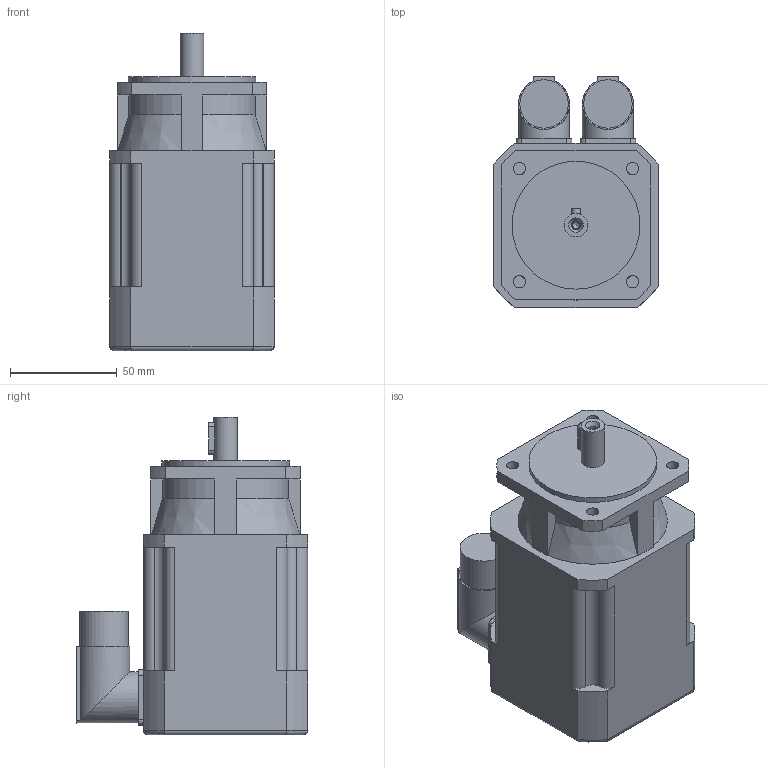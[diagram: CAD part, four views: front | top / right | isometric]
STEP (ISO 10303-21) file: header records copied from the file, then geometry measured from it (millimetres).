
FILE_DESCRIPTION(/* description */ (''),/* implementation_level */ '2;1');
FILE_NAME(/* name */ 'C:\Users\Pastrello_Ylenia\Desktop\Modelli 3D Serad\B36I\B36D6IxxA052000.stp',/* time_stamp */ '2015-06-12T15:53:52+02:00',/* author */ ('Pastrello_Ylenia'),/* organization */ (''),/* preprocessor_version */ 'ST-DEVELOPER v15.6',/* originating_system */ 'Autodesk Inventor 2015',/* authorisation */ '');
FILE_SCHEMA (('AUTOMOTIVE_DESIGN { 1 0 10303 214 3 1 1 }'));
Length unit declared in the file: millimetre
Products named in the file (1): B36D6IxxA052000
Bounding box: 77 x 108.5 x 149 mm (x, y, z)
Volume: 704205.5 mm3; surface area: 59655.4 mm2
Topology: 1 solids, 1 shells, 137 faces, 372 edges, 244 vertices
Faces by surface type: plane 66, cylinder 56, cone 11, torus 4
Full cylindrical faces by diameter (mm): 3.242 x1, 4.3 x1, 5.8 x4, 11 x1, 22.7 x2, 24 x2, 60 x1
Entity records: 4352 total; most frequent: CARTESIAN_POINT 890, DIRECTION 726, ORIENTED_EDGE 702, EDGE_CURVE 351, AXIS2_PLACEMENT_3D 259, VERTEX_POINT 239, LINE 208, VECTOR 208
